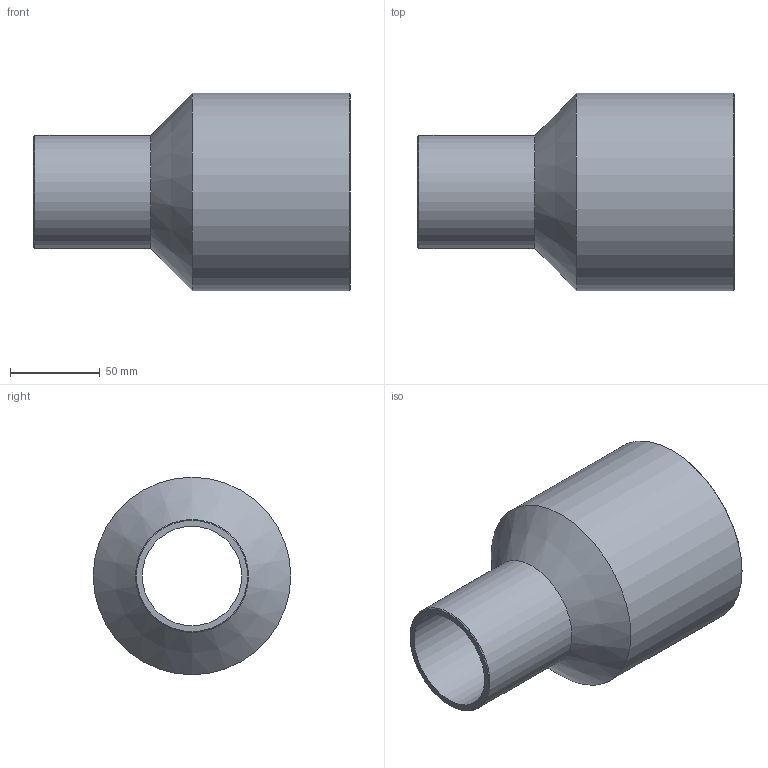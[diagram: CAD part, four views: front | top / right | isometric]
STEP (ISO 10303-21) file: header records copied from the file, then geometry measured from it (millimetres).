
FILE_DESCRIPTION(/* description */ ('Unknown'),/* implementation_level */ '2;1');
FILE_NAME(/* name */ 'RP110063B',/* time_stamp */ '2021-09-17T11:26:52+02:00',/* author */ ('Unknown'),/* organization */ ('Unknown'),/* preprocessor_version */ 'ST-DEVELOPER v16.7',/* originating_system */ 'Solid Edge',/* authorisation */ 'Unknown');
FILE_SCHEMA (('AUTOMOTIVE_DESIGN {1 0 10303 214 3 1 1}'));
Length unit declared in the file: millimetre
Products named in the file (1): RP110063B
Bounding box: 176 x 110 x 110 mm (x, y, z)
Volume: 304516.8 mm3; surface area: 99041.1 mm2
Topology: 1 solids, 1 shells, 10 faces, 19 edges, 11 vertices
Faces by surface type: cylinder 4, cone 4, plane 2
Full cylindrical faces by diameter (mm): 55.4 x1, 63 x1, 96.8 x1, 110 x1
Entity records: 238 total; most frequent: DIRECTION 42, CARTESIAN_POINT 31, AXIS2_PLACEMENT_3D 21, ORIENTED_EDGE 20, EDGE_LOOP 20, FACE_BOUND 20, EDGE_CURVE 10, VERTEX_POINT 10
